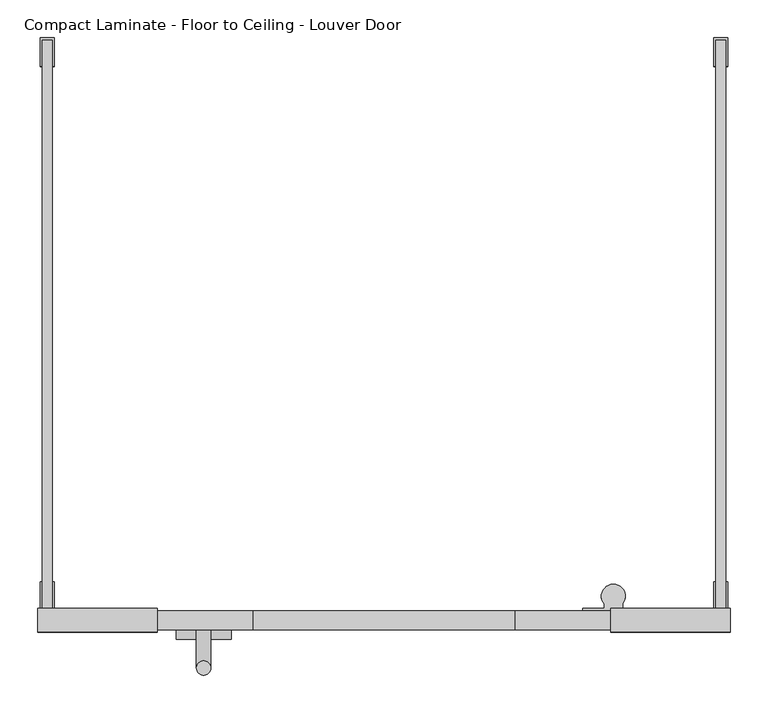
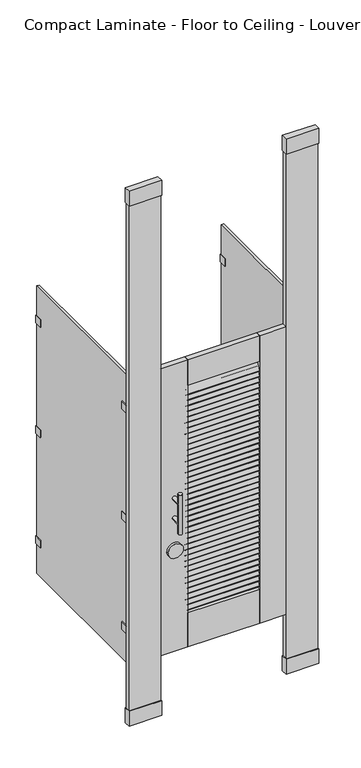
"""IFC4 building model written with IfcOpenShell, lengths in millimetres: proxy geometry, Toilet-Partition_Ironwood-Mfg_Compact-Laminate : Compact Laminate - Floor to Ceiling - Louver Door."""

from ifc_helpers import new_model, si_unit, point, frame, frame_2d, origin, origin_with_axes, place, context, project, spatial, polyline, circle_curve, ellipse_curve, trimmed, segment, composite_curve, outline, extrude, source, transform, mapped, element, save
from ifc_brep_helpers import plane_surface, cylinder_surface, advanced_brep


def compact_laminate_floor_to_ceiling_louver_door_2ef58aba(model_context):
    return source(origin(), model_context, "Body", "SolidModel", [
        extrude(outline(polyline([(542.925, -790.575), (542.925, -758.825), (701.675, -758.825), (701.675, -790.575), (542.925, -790.575)])), frame((0.0, 0.0, 2667.0), z_axis=(0.0, 0.0, 1.0), x_axis=(1.0, 0.0, 0.0)), (0.0, 0.0, 1.0), 76.1999999),
        extrude(outline(polyline([(701.675, -758.825), (701.675, -790.575), (542.925, -790.575), (542.925, -758.825), (701.675, -758.825)])), origin_with_axes(), (0.0, 0.0, 1.0), 76.2),
        extrude(outline(polyline([(698.5, -762.0), (698.5, -787.4), (546.1, -787.4), (546.1, -762.0), (698.5, -762.0)])), origin_with_axes(), (0.0, 0.0, 1.0), 2667.0),
        extrude(outline(polyline([(-60.325, -790.575), (-219.075, -790.575), (-219.075, -758.825), (-60.325, -758.825), (-60.325, -790.575)])), frame((0.0, 0.0, 2667.0), z_axis=(0.0, 0.0, 1.0), x_axis=(1.0, 0.0, 0.0)), (0.0, 0.0, 1.0), 76.1999999),
        extrude(outline(polyline([(-219.075, -758.825), (-60.325, -758.825), (-60.325, -790.575), (-219.075, -790.575), (-219.075, -758.825)])), origin_with_axes(), (0.0, 0.0, 1.0), 76.2),
        extrude(outline(polyline([(-215.9, -762.0), (-63.5, -762.0), (-63.5, -787.4), (-215.9, -787.4), (-215.9, -762.0)])), origin_with_axes(), (0.0, 0.0, 1.0), 2667.0),
        extrude(outline(composite_curve([segment(polyline([(-762.7746396, 1604.8741298), (-780.7614889, 1567.9956236)]), True, "CONTINUOUS"), segment(trimmed(circle_curve(frame_2d((-783.61516, 1569.387452)), 3.175), [point((-780.7614889, 1567.9956236))], [point((-786.4688311, 1570.7792804))], False, "CARTESIAN"), True, "CONTINUOUS"), segment(polyline([(-786.4688311, 1570.7792804), (-768.4819818, 1607.6577866)]), True, "CONTINUOUS"), segment(trimmed(circle_curve(frame_2d((-765.6283107, 1606.2659582)), 3.175), [point((-768.4819818, 1607.6577866))], [point((-762.7746396, 1604.8741298))], False, "CARTESIAN"), True, "CONTINUOUS")], self_intersect=False)), frame((66.675, 0.0, 0.0), z_axis=(1.0, 0.0, 0.0), x_axis=(0.0, 1.0, 0.0)), (0.0, 0.0, 1.0), 349.25),
        extrude(outline(composite_curve([segment(polyline([(-762.7746396, 1576.5578755), (-780.7614889, 1539.6793692)]), True, "CONTINUOUS"), segment(trimmed(circle_curve(frame_2d((-783.61516, 1541.0711976)), 3.175), [point((-780.7614889, 1539.6793692))], [point((-786.4688311, 1542.463026))], False, "CARTESIAN"), True, "CONTINUOUS"), segment(polyline([(-786.4688311, 1542.463026), (-768.4819818, 1579.3415322)]), True, "CONTINUOUS"), segment(trimmed(circle_curve(frame_2d((-765.6283107, 1577.9497038)), 3.175), [point((-768.4819818, 1579.3415322))], [point((-762.7746396, 1576.5578755))], False, "CARTESIAN"), True, "CONTINUOUS")], self_intersect=False)), frame((66.675, 0.0, 0.0), z_axis=(1.0, 0.0, 0.0), x_axis=(0.0, 1.0, 0.0)), (0.0, 0.0, 1.0), 349.25),
        extrude(outline(composite_curve([segment(polyline([(-762.7746396, 1548.2416211), (-780.7614889, 1511.3631149)]), True, "CONTINUOUS"), segment(trimmed(circle_curve(frame_2d((-783.61516, 1512.7549433)), 3.175), [point((-780.7614889, 1511.3631149))], [point((-786.4688311, 1514.1467716))], False, "CARTESIAN"), True, "CONTINUOUS"), segment(polyline([(-786.4688311, 1514.1467716), (-768.4819818, 1551.0252779)]), True, "CONTINUOUS"), segment(trimmed(circle_curve(frame_2d((-765.6283107, 1549.6334495)), 3.175), [point((-768.4819818, 1551.0252779))], [point((-762.7746396, 1548.2416211))], False, "CARTESIAN"), True, "CONTINUOUS")], self_intersect=False)), frame((66.675, 0.0, 0.0), z_axis=(1.0, 0.0, 0.0), x_axis=(0.0, 1.0, 0.0)), (0.0, 0.0, 1.0), 349.25),
        extrude(outline(composite_curve([segment(polyline([(-762.7746396, 1519.9253667), (-780.7614889, 1483.0468605)]), True, "CONTINUOUS"), segment(trimmed(circle_curve(frame_2d((-783.61516, 1484.4386889)), 3.175), [point((-780.7614889, 1483.0468605))], [point((-786.4688311, 1485.8305173))], False, "CARTESIAN"), True, "CONTINUOUS"), segment(polyline([(-786.4688311, 1485.8305173), (-768.4819818, 1522.7090235)]), True, "CONTINUOUS"), segment(trimmed(circle_curve(frame_2d((-765.6283107, 1521.3171951)), 3.175), [point((-768.4819818, 1522.7090235))], [point((-762.7746396, 1519.9253667))], False, "CARTESIAN"), True, "CONTINUOUS")], self_intersect=False)), frame((66.675, 0.0, 0.0), z_axis=(1.0, 0.0, 0.0), x_axis=(0.0, 1.0, 0.0)), (0.0, 0.0, 1.0), 349.25),
        extrude(outline(composite_curve([segment(polyline([(-762.7746396, 1491.6091124), (-780.7614889, 1454.7306061)]), True, "CONTINUOUS"), segment(trimmed(circle_curve(frame_2d((-783.61516, 1456.1224345)), 3.175), [point((-780.7614889, 1454.7306061))], [point((-786.4688311, 1457.5142629))], False, "CARTESIAN"), True, "CONTINUOUS"), segment(polyline([(-786.4688311, 1457.5142629), (-768.4819818, 1494.3927691)]), True, "CONTINUOUS"), segment(trimmed(circle_curve(frame_2d((-765.6283107, 1493.0009408)), 3.175), [point((-768.4819818, 1494.3927691))], [point((-762.7746396, 1491.6091124))], False, "CARTESIAN"), True, "CONTINUOUS")], self_intersect=False)), frame((66.675, 0.0, 0.0), z_axis=(1.0, 0.0, 0.0), x_axis=(0.0, 1.0, 0.0)), (0.0, 0.0, 1.0), 349.25),
        extrude(outline(composite_curve([segment(polyline([(-762.7746396, 1463.292858), (-780.7614889, 1426.4143518)]), True, "CONTINUOUS"), segment(trimmed(circle_curve(frame_2d((-783.61516, 1427.8061802)), 3.175), [point((-780.7614889, 1426.4143518))], [point((-786.4688311, 1429.1980085))], False, "CARTESIAN"), True, "CONTINUOUS"), segment(polyline([(-786.4688311, 1429.1980085), (-768.4819818, 1466.0765148)]), True, "CONTINUOUS"), segment(trimmed(circle_curve(frame_2d((-765.6283107, 1464.6846864)), 3.175), [point((-768.4819818, 1466.0765148))], [point((-762.7746396, 1463.292858))], False, "CARTESIAN"), True, "CONTINUOUS")], self_intersect=False)), frame((66.675, 0.0, 0.0), z_axis=(1.0, 0.0, 0.0), x_axis=(0.0, 1.0, 0.0)), (0.0, 0.0, 1.0), 349.25),
        extrude(outline(composite_curve([segment(polyline([(-762.7746396, 1434.9766036), (-780.7614889, 1398.0980974)]), True, "CONTINUOUS"), segment(trimmed(circle_curve(frame_2d((-783.61516, 1399.4899258)), 3.175), [point((-780.7614889, 1398.0980974))], [point((-786.4688311, 1400.8817542))], False, "CARTESIAN"), True, "CONTINUOUS"), segment(polyline([(-786.4688311, 1400.8817542), (-768.4819818, 1437.7602604)]), True, "CONTINUOUS"), segment(trimmed(circle_curve(frame_2d((-765.6283107, 1436.368432)), 3.175), [point((-768.4819818, 1437.7602604))], [point((-762.7746396, 1434.9766036))], False, "CARTESIAN"), True, "CONTINUOUS")], self_intersect=False)), frame((66.675, 0.0, 0.0), z_axis=(1.0, 0.0, 0.0), x_axis=(0.0, 1.0, 0.0)), (0.0, 0.0, 1.0), 349.25),
        extrude(outline(composite_curve([segment(polyline([(-762.7746396, 1406.6603493), (-780.7614889, 1369.781843)]), True, "CONTINUOUS"), segment(trimmed(circle_curve(frame_2d((-783.61516, 1371.1736714)), 3.175), [point((-780.7614889, 1369.781843))], [point((-786.4688311, 1372.5654998))], False, "CARTESIAN"), True, "CONTINUOUS"), segment(polyline([(-786.4688311, 1372.5654998), (-768.4819818, 1409.444006)]), True, "CONTINUOUS"), segment(trimmed(circle_curve(frame_2d((-765.6283107, 1408.0521777)), 3.175), [point((-768.4819818, 1409.444006))], [point((-762.7746396, 1406.6603493))], False, "CARTESIAN"), True, "CONTINUOUS")], self_intersect=False)), frame((66.675, 0.0, 0.0), z_axis=(1.0, 0.0, 0.0), x_axis=(0.0, 1.0, 0.0)), (0.0, 0.0, 1.0), 349.25),
        extrude(outline(composite_curve([segment(polyline([(-762.7746396, 1378.3440949), (-780.7614889, 1341.4655887)]), True, "CONTINUOUS"), segment(trimmed(circle_curve(frame_2d((-783.61516, 1342.8574171)), 3.175), [point((-780.7614889, 1341.4655887))], [point((-786.4688311, 1344.2492455))], False, "CARTESIAN"), True, "CONTINUOUS"), segment(polyline([(-786.4688311, 1344.2492455), (-768.4819818, 1381.1277517)]), True, "CONTINUOUS"), segment(trimmed(circle_curve(frame_2d((-765.6283107, 1379.7359233)), 3.175), [point((-768.4819818, 1381.1277517))], [point((-762.7746396, 1378.3440949))], False, "CARTESIAN"), True, "CONTINUOUS")], self_intersect=False)), frame((66.675, 0.0, 0.0), z_axis=(1.0, 0.0, 0.0), x_axis=(0.0, 1.0, 0.0)), (0.0, 0.0, 1.0), 349.25),
        extrude(outline(composite_curve([segment(polyline([(-762.7746396, 1350.0278405), (-780.7614889, 1313.1493343)]), True, "CONTINUOUS"), segment(trimmed(circle_curve(frame_2d((-783.61516, 1314.5411627)), 3.175), [point((-780.7614889, 1313.1493343))], [point((-786.4688311, 1315.9329911))], False, "CARTESIAN"), True, "CONTINUOUS"), segment(polyline([(-786.4688311, 1315.9329911), (-768.4819818, 1352.8114973)]), True, "CONTINUOUS"), segment(trimmed(circle_curve(frame_2d((-765.6283107, 1351.4196689)), 3.175), [point((-768.4819818, 1352.8114973))], [point((-762.7746396, 1350.0278405))], False, "CARTESIAN"), True, "CONTINUOUS")], self_intersect=False)), frame((66.675, 0.0, 0.0), z_axis=(1.0, 0.0, 0.0), x_axis=(0.0, 1.0, 0.0)), (0.0, 0.0, 1.0), 349.25),
        extrude(outline(composite_curve([segment(polyline([(-762.7746396, 1321.7115862), (-780.7614889, 1284.8330799)]), True, "CONTINUOUS"), segment(trimmed(circle_curve(frame_2d((-783.61516, 1286.2249083)), 3.175), [point((-780.7614889, 1284.8330799))], [point((-786.4688311, 1287.6167367))], False, "CARTESIAN"), True, "CONTINUOUS"), segment(polyline([(-786.4688311, 1287.6167367), (-768.4819818, 1324.4952429)]), True, "CONTINUOUS"), segment(trimmed(circle_curve(frame_2d((-765.6283107, 1323.1034146)), 3.175), [point((-768.4819818, 1324.4952429))], [point((-762.7746396, 1321.7115862))], False, "CARTESIAN"), True, "CONTINUOUS")], self_intersect=False)), frame((66.675, 0.0, 0.0), z_axis=(1.0, 0.0, 0.0), x_axis=(0.0, 1.0, 0.0)), (0.0, 0.0, 1.0), 349.25),
        extrude(outline(composite_curve([segment(polyline([(-762.7746396, 1293.3953318), (-780.7614889, 1256.5168256)]), True, "CONTINUOUS"), segment(trimmed(circle_curve(frame_2d((-783.61516, 1257.908654)), 3.175), [point((-780.7614889, 1256.5168256))], [point((-786.4688311, 1259.3004824))], False, "CARTESIAN"), True, "CONTINUOUS"), segment(polyline([(-786.4688311, 1259.3004824), (-768.4819818, 1296.1789886)]), True, "CONTINUOUS"), segment(trimmed(circle_curve(frame_2d((-765.6283107, 1294.7871602)), 3.175), [point((-768.4819818, 1296.1789886))], [point((-762.7746396, 1293.3953318))], False, "CARTESIAN"), True, "CONTINUOUS")], self_intersect=False)), frame((66.675, 0.0, 0.0), z_axis=(1.0, 0.0, 0.0), x_axis=(0.0, 1.0, 0.0)), (0.0, 0.0, 1.0), 349.25),
        extrude(outline(composite_curve([segment(polyline([(-762.7746396, 1265.0790774), (-780.7614889, 1228.2005712)]), True, "CONTINUOUS"), segment(trimmed(circle_curve(frame_2d((-783.61516, 1229.5923996)), 3.175), [point((-780.7614889, 1228.2005712))], [point((-786.4688311, 1230.984228))], False, "CARTESIAN"), True, "CONTINUOUS"), segment(polyline([(-786.4688311, 1230.984228), (-768.4819818, 1267.8627342)]), True, "CONTINUOUS"), segment(trimmed(circle_curve(frame_2d((-765.6283107, 1266.4709058)), 3.175), [point((-768.4819818, 1267.8627342))], [point((-762.7746396, 1265.0790774))], False, "CARTESIAN"), True, "CONTINUOUS")], self_intersect=False)), frame((66.675, 0.0, 0.0), z_axis=(1.0, 0.0, 0.0), x_axis=(0.0, 1.0, 0.0)), (0.0, 0.0, 1.0), 349.25),
        extrude(outline(composite_curve([segment(polyline([(-762.7746396, 1236.7628231), (-780.7614889, 1199.8843168)]), True, "CONTINUOUS"), segment(trimmed(circle_curve(frame_2d((-783.61516, 1201.2761452)), 3.175), [point((-780.7614889, 1199.8843168))], [point((-786.4688311, 1202.6679736))], False, "CARTESIAN"), True, "CONTINUOUS"), segment(polyline([(-786.4688311, 1202.6679736), (-768.4819818, 1239.5464799)]), True, "CONTINUOUS"), segment(trimmed(circle_curve(frame_2d((-765.6283107, 1238.1546515)), 3.175), [point((-768.4819818, 1239.5464799))], [point((-762.7746396, 1236.7628231))], False, "CARTESIAN"), True, "CONTINUOUS")], self_intersect=False)), frame((66.675, 0.0, 0.0), z_axis=(1.0, 0.0, 0.0), x_axis=(0.0, 1.0, 0.0)), (0.0, 0.0, 1.0), 349.25),
        extrude(outline(composite_curve([segment(polyline([(-762.7746396, 1208.4465687), (-780.7614889, 1171.5680625)]), True, "CONTINUOUS"), segment(trimmed(circle_curve(frame_2d((-783.61516, 1172.9598909)), 3.175), [point((-780.7614889, 1171.5680625))], [point((-786.4688311, 1174.3517193))], False, "CARTESIAN"), True, "CONTINUOUS"), segment(polyline([(-786.4688311, 1174.3517193), (-768.4819818, 1211.2302255)]), True, "CONTINUOUS"), segment(trimmed(circle_curve(frame_2d((-765.6283107, 1209.8383971)), 3.175), [point((-768.4819818, 1211.2302255))], [point((-762.7746396, 1208.4465687))], False, "CARTESIAN"), True, "CONTINUOUS")], self_intersect=False)), frame((66.675, 0.0, 0.0), z_axis=(1.0, 0.0, 0.0), x_axis=(0.0, 1.0, 0.0)), (0.0, 0.0, 1.0), 349.25),
        extrude(outline(composite_curve([segment(polyline([(-762.7746396, 1180.1303143), (-780.7614889, 1143.2518081)]), True, "CONTINUOUS"), segment(trimmed(circle_curve(frame_2d((-783.61516, 1144.6436365)), 3.175), [point((-780.7614889, 1143.2518081))], [point((-786.4688311, 1146.0354649))], False, "CARTESIAN"), True, "CONTINUOUS"), segment(polyline([(-786.4688311, 1146.0354649), (-768.4819818, 1182.9139711)]), True, "CONTINUOUS"), segment(trimmed(circle_curve(frame_2d((-765.6283107, 1181.5221427)), 3.175), [point((-768.4819818, 1182.9139711))], [point((-762.7746396, 1180.1303143))], False, "CARTESIAN"), True, "CONTINUOUS")], self_intersect=False)), frame((66.675, 0.0, 0.0), z_axis=(1.0, 0.0, 0.0), x_axis=(0.0, 1.0, 0.0)), (0.0, 0.0, 1.0), 349.25),
        extrude(outline(composite_curve([segment(polyline([(-762.7746396, 1151.81406), (-780.7614889, 1114.9355537)]), True, "CONTINUOUS"), segment(trimmed(circle_curve(frame_2d((-783.61516, 1116.3273821)), 3.175), [point((-780.7614889, 1114.9355537))], [point((-786.4688311, 1117.7192105))], False, "CARTESIAN"), True, "CONTINUOUS"), segment(polyline([(-786.4688311, 1117.7192105), (-768.4819818, 1154.5977168)]), True, "CONTINUOUS"), segment(trimmed(circle_curve(frame_2d((-765.6283107, 1153.2058884)), 3.175), [point((-768.4819818, 1154.5977168))], [point((-762.7746396, 1151.81406))], False, "CARTESIAN"), True, "CONTINUOUS")], self_intersect=False)), frame((66.675, 0.0, 0.0), z_axis=(1.0, 0.0, 0.0), x_axis=(0.0, 1.0, 0.0)), (0.0, 0.0, 1.0), 349.25),
        extrude(outline(composite_curve([segment(polyline([(-762.7746396, 1123.4978056), (-780.7614889, 1086.6192994)]), True, "CONTINUOUS"), segment(trimmed(circle_curve(frame_2d((-783.61516, 1088.0111278)), 3.175), [point((-780.7614889, 1086.6192994))], [point((-786.4688311, 1089.4029562))], False, "CARTESIAN"), True, "CONTINUOUS"), segment(polyline([(-786.4688311, 1089.4029562), (-768.4819818, 1126.2814624)]), True, "CONTINUOUS"), segment(trimmed(circle_curve(frame_2d((-765.6283107, 1124.889634)), 3.175), [point((-768.4819818, 1126.2814624))], [point((-762.7746396, 1123.4978056))], False, "CARTESIAN"), True, "CONTINUOUS")], self_intersect=False)), frame((66.675, 0.0, 0.0), z_axis=(1.0, 0.0, 0.0), x_axis=(0.0, 1.0, 0.0)), (0.0, 0.0, 1.0), 349.25),
        extrude(outline(composite_curve([segment(polyline([(-762.7746396, 1095.1815512), (-780.7614889, 1058.303045)]), True, "CONTINUOUS"), segment(trimmed(circle_curve(frame_2d((-783.61516, 1059.6948734)), 3.175), [point((-780.7614889, 1058.303045))], [point((-786.4688311, 1061.0867018))], False, "CARTESIAN"), True, "CONTINUOUS"), segment(polyline([(-786.4688311, 1061.0867018), (-768.4819818, 1097.965208)]), True, "CONTINUOUS"), segment(trimmed(circle_curve(frame_2d((-765.6283107, 1096.5733796)), 3.175), [point((-768.4819818, 1097.965208))], [point((-762.7746396, 1095.1815512))], False, "CARTESIAN"), True, "CONTINUOUS")], self_intersect=False)), frame((66.675, 0.0, 0.0), z_axis=(1.0, 0.0, 0.0), x_axis=(0.0, 1.0, 0.0)), (0.0, 0.0, 1.0), 349.25),
        extrude(outline(composite_curve([segment(polyline([(-762.7746396, 1066.8652969), (-780.7614889, 1029.9867907)]), True, "CONTINUOUS"), segment(trimmed(circle_curve(frame_2d((-783.61516, 1031.378619)), 3.175), [point((-780.7614889, 1029.9867907))], [point((-786.4688311, 1032.7704474))], False, "CARTESIAN"), True, "CONTINUOUS"), segment(polyline([(-786.4688311, 1032.7704474), (-768.4819818, 1069.6489537)]), True, "CONTINUOUS"), segment(trimmed(circle_curve(frame_2d((-765.6283107, 1068.2571253)), 3.175), [point((-768.4819818, 1069.6489537))], [point((-762.7746396, 1066.8652969))], False, "CARTESIAN"), True, "CONTINUOUS")], self_intersect=False)), frame((66.675, 0.0, 0.0), z_axis=(1.0, 0.0, 0.0), x_axis=(0.0, 1.0, 0.0)), (0.0, 0.0, 1.0), 349.25),
        extrude(outline(composite_curve([segment(polyline([(-762.7746396, 1038.5490425), (-780.7614889, 1001.6705363)]), True, "CONTINUOUS"), segment(trimmed(circle_curve(frame_2d((-783.61516, 1003.0623647)), 3.175), [point((-780.7614889, 1001.6705363))], [point((-786.4688311, 1004.4541931))], False, "CARTESIAN"), True, "CONTINUOUS"), segment(polyline([(-786.4688311, 1004.4541931), (-768.4819818, 1041.3326993)]), True, "CONTINUOUS"), segment(trimmed(circle_curve(frame_2d((-765.6283107, 1039.9408709)), 3.175), [point((-768.4819818, 1041.3326993))], [point((-762.7746396, 1038.5490425))], False, "CARTESIAN"), True, "CONTINUOUS")], self_intersect=False)), frame((66.675, 0.0, 0.0), z_axis=(1.0, 0.0, 0.0), x_axis=(0.0, 1.0, 0.0)), (0.0, 0.0, 1.0), 349.25),
        extrude(outline(composite_curve([segment(polyline([(-762.7746396, 1010.2327881), (-780.7614889, 973.3542819)]), True, "CONTINUOUS"), segment(trimmed(circle_curve(frame_2d((-783.61516, 974.7461103)), 3.175), [point((-780.7614889, 973.3542819))], [point((-786.4688311, 976.1379387))], False, "CARTESIAN"), True, "CONTINUOUS"), segment(polyline([(-786.4688311, 976.1379387), (-768.4819818, 1013.0164449)]), True, "CONTINUOUS"), segment(trimmed(circle_curve(frame_2d((-765.6283107, 1011.6246165)), 3.175), [point((-768.4819818, 1013.0164449))], [point((-762.7746396, 1010.2327881))], False, "CARTESIAN"), True, "CONTINUOUS")], self_intersect=False)), frame((66.675, 0.0, 0.0), z_axis=(1.0, 0.0, 0.0), x_axis=(0.0, 1.0, 0.0)), (0.0, 0.0, 1.0), 349.25),
        extrude(outline(composite_curve([segment(polyline([(-762.7746396, 981.9165338), (-780.7614889, 945.0380276)]), True, "CONTINUOUS"), segment(trimmed(circle_curve(frame_2d((-783.61516, 946.4298559)), 3.175), [point((-780.7614889, 945.0380276))], [point((-786.4688311, 947.8216843))], False, "CARTESIAN"), True, "CONTINUOUS"), segment(polyline([(-786.4688311, 947.8216843), (-768.4819818, 984.7001906)]), True, "CONTINUOUS"), segment(trimmed(circle_curve(frame_2d((-765.6283107, 983.3083622)), 3.175), [point((-768.4819818, 984.7001906))], [point((-762.7746396, 981.9165338))], False, "CARTESIAN"), True, "CONTINUOUS")], self_intersect=False)), frame((66.675, 0.0, 0.0), z_axis=(1.0, 0.0, 0.0), x_axis=(0.0, 1.0, 0.0)), (0.0, 0.0, 1.0), 349.25),
        extrude(outline(composite_curve([segment(polyline([(-762.7746396, 953.6002794), (-780.7614889, 916.7217732)]), True, "CONTINUOUS"), segment(trimmed(circle_curve(frame_2d((-783.61516, 918.1136016)), 3.175), [point((-780.7614889, 916.7217732))], [point((-786.4688311, 919.50543))], False, "CARTESIAN"), True, "CONTINUOUS"), segment(polyline([(-786.4688311, 919.50543), (-768.4819818, 956.3839362)]), True, "CONTINUOUS"), segment(trimmed(circle_curve(frame_2d((-765.6283107, 954.9921078)), 3.175), [point((-768.4819818, 956.3839362))], [point((-762.7746396, 953.6002794))], False, "CARTESIAN"), True, "CONTINUOUS")], self_intersect=False)), frame((66.675, 0.0, 0.0), z_axis=(1.0, 0.0, 0.0), x_axis=(0.0, 1.0, 0.0)), (0.0, 0.0, 1.0), 349.25),
        extrude(outline(composite_curve([segment(polyline([(-762.7746396, 925.284025), (-780.7614889, 888.4055188)]), True, "CONTINUOUS"), segment(trimmed(circle_curve(frame_2d((-783.61516, 889.7973472)), 3.175), [point((-780.7614889, 888.4055188))], [point((-786.4688311, 891.1891756))], False, "CARTESIAN"), True, "CONTINUOUS"), segment(polyline([(-786.4688311, 891.1891756), (-768.4819818, 928.0676818)]), True, "CONTINUOUS"), segment(trimmed(circle_curve(frame_2d((-765.6283107, 926.6758534)), 3.175), [point((-768.4819818, 928.0676818))], [point((-762.7746396, 925.284025))], False, "CARTESIAN"), True, "CONTINUOUS")], self_intersect=False)), frame((66.675, 0.0, 0.0), z_axis=(1.0, 0.0, 0.0), x_axis=(0.0, 1.0, 0.0)), (0.0, 0.0, 1.0), 349.25),
        extrude(outline(composite_curve([segment(polyline([(-762.7746396, 896.9677707), (-780.7614889, 860.0892645)]), True, "CONTINUOUS"), segment(trimmed(circle_curve(frame_2d((-783.61516, 861.4810928)), 3.175), [point((-780.7614889, 860.0892645))], [point((-786.4688311, 862.8729212))], False, "CARTESIAN"), True, "CONTINUOUS"), segment(polyline([(-786.4688311, 862.8729212), (-768.4819818, 899.7514275)]), True, "CONTINUOUS"), segment(trimmed(circle_curve(frame_2d((-765.6283107, 898.3595991)), 3.175), [point((-768.4819818, 899.7514275))], [point((-762.7746396, 896.9677707))], False, "CARTESIAN"), True, "CONTINUOUS")], self_intersect=False)), frame((66.675, 0.0, 0.0), z_axis=(1.0, 0.0, 0.0), x_axis=(0.0, 1.0, 0.0)), (0.0, 0.0, 1.0), 349.25),
        extrude(outline(composite_curve([segment(polyline([(-762.7746396, 868.6515163), (-780.7614889, 831.7730101)]), True, "CONTINUOUS"), segment(trimmed(circle_curve(frame_2d((-783.61516, 833.1648385)), 3.175), [point((-780.7614889, 831.7730101))], [point((-786.4688311, 834.5566669))], False, "CARTESIAN"), True, "CONTINUOUS"), segment(polyline([(-786.4688311, 834.5566669), (-768.4819818, 871.4351731)]), True, "CONTINUOUS"), segment(trimmed(circle_curve(frame_2d((-765.6283107, 870.0433447)), 3.175), [point((-768.4819818, 871.4351731))], [point((-762.7746396, 868.6515163))], False, "CARTESIAN"), True, "CONTINUOUS")], self_intersect=False)), frame((66.675, 0.0, 0.0), z_axis=(1.0, 0.0, 0.0), x_axis=(0.0, 1.0, 0.0)), (0.0, 0.0, 1.0), 349.25),
        extrude(outline(composite_curve([segment(polyline([(-762.7746396, 840.335262), (-780.7614889, 803.4567557)]), True, "CONTINUOUS"), segment(trimmed(circle_curve(frame_2d((-783.61516, 804.8485841)), 3.175), [point((-780.7614889, 803.4567557))], [point((-786.4688311, 806.2404125))], False, "CARTESIAN"), True, "CONTINUOUS"), segment(polyline([(-786.4688311, 806.2404125), (-768.4819818, 843.1189187)]), True, "CONTINUOUS"), segment(trimmed(circle_curve(frame_2d((-765.6283107, 841.7270903)), 3.175), [point((-768.4819818, 843.1189187))], [point((-762.7746396, 840.335262))], False, "CARTESIAN"), True, "CONTINUOUS")], self_intersect=False)), frame((66.675, 0.0, 0.0), z_axis=(1.0, 0.0, 0.0), x_axis=(0.0, 1.0, 0.0)), (0.0, 0.0, 1.0), 349.25),
        extrude(outline(composite_curve([segment(polyline([(-762.7746396, 812.0190076), (-780.7614889, 775.1405014)]), True, "CONTINUOUS"), segment(trimmed(circle_curve(frame_2d((-783.61516, 776.5323298)), 3.175), [point((-780.7614889, 775.1405014))], [point((-786.4688311, 777.9241581))], False, "CARTESIAN"), True, "CONTINUOUS"), segment(polyline([(-786.4688311, 777.9241581), (-768.4819818, 814.8026644)]), True, "CONTINUOUS"), segment(trimmed(circle_curve(frame_2d((-765.6283107, 813.410836)), 3.175), [point((-768.4819818, 814.8026644))], [point((-762.7746396, 812.0190076))], False, "CARTESIAN"), True, "CONTINUOUS")], self_intersect=False)), frame((66.675, 0.0, 0.0), z_axis=(1.0, 0.0, 0.0), x_axis=(0.0, 1.0, 0.0)), (0.0, 0.0, 1.0), 349.25),
        extrude(outline(composite_curve([segment(polyline([(-762.7746396, 783.7027532), (-780.7614889, 746.824247)]), True, "CONTINUOUS"), segment(trimmed(circle_curve(frame_2d((-783.61516, 748.2160754)), 3.175), [point((-780.7614889, 746.824247))], [point((-786.4688311, 749.6079038))], False, "CARTESIAN"), True, "CONTINUOUS"), segment(polyline([(-786.4688311, 749.6079038), (-768.4819818, 786.48641)]), True, "CONTINUOUS"), segment(trimmed(circle_curve(frame_2d((-765.6283107, 785.0945816)), 3.175), [point((-768.4819818, 786.48641))], [point((-762.7746396, 783.7027532))], False, "CARTESIAN"), True, "CONTINUOUS")], self_intersect=False)), frame((66.675, 0.0, 0.0), z_axis=(1.0, 0.0, 0.0), x_axis=(0.0, 1.0, 0.0)), (0.0, 0.0, 1.0), 349.25),
        extrude(outline(composite_curve([segment(polyline([(-762.7746396, 755.3864989), (-780.7614889, 718.5079926)]), True, "CONTINUOUS"), segment(trimmed(circle_curve(frame_2d((-783.61516, 719.899821)), 3.175), [point((-780.7614889, 718.5079926))], [point((-786.4688311, 721.2916494))], False, "CARTESIAN"), True, "CONTINUOUS"), segment(polyline([(-786.4688311, 721.2916494), (-768.4819818, 758.1701556)]), True, "CONTINUOUS"), segment(trimmed(circle_curve(frame_2d((-765.6283107, 756.7783272)), 3.175), [point((-768.4819818, 758.1701556))], [point((-762.7746396, 755.3864989))], False, "CARTESIAN"), True, "CONTINUOUS")], self_intersect=False)), frame((66.675, 0.0, 0.0), z_axis=(1.0, 0.0, 0.0), x_axis=(0.0, 1.0, 0.0)), (0.0, 0.0, 1.0), 349.25),
        extrude(outline(composite_curve([segment(polyline([(-762.7746396, 727.0702445), (-780.7614889, 690.1917383)]), True, "CONTINUOUS"), segment(trimmed(circle_curve(frame_2d((-783.61516, 691.5835667)), 3.175), [point((-780.7614889, 690.1917383))], [point((-786.4688311, 692.975395))], False, "CARTESIAN"), True, "CONTINUOUS"), segment(polyline([(-786.4688311, 692.975395), (-768.4819818, 729.8539013)]), True, "CONTINUOUS"), segment(trimmed(circle_curve(frame_2d((-765.6283107, 728.4620729)), 3.175), [point((-768.4819818, 729.8539013))], [point((-762.7746396, 727.0702445))], False, "CARTESIAN"), True, "CONTINUOUS")], self_intersect=False)), frame((66.675, 0.0, 0.0), z_axis=(1.0, 0.0, 0.0), x_axis=(0.0, 1.0, 0.0)), (0.0, 0.0, 1.0), 349.25),
        extrude(outline(composite_curve([segment(polyline([(-762.7746396, 698.7539901), (-780.7614889, 661.8754839)]), True, "CONTINUOUS"), segment(trimmed(circle_curve(frame_2d((-783.61516, 663.2673123)), 3.175), [point((-780.7614889, 661.8754839))], [point((-786.4688311, 664.6591407))], False, "CARTESIAN"), True, "CONTINUOUS"), segment(polyline([(-786.4688311, 664.6591407), (-768.4819818, 701.5376469)]), True, "CONTINUOUS"), segment(trimmed(circle_curve(frame_2d((-765.6283107, 700.1458185)), 3.175), [point((-768.4819818, 701.5376469))], [point((-762.7746396, 698.7539901))], False, "CARTESIAN"), True, "CONTINUOUS")], self_intersect=False)), frame((66.675, 0.0, 0.0), z_axis=(1.0, 0.0, 0.0), x_axis=(0.0, 1.0, 0.0)), (0.0, 0.0, 1.0), 349.25),
        extrude(outline(composite_curve([segment(polyline([(-762.7746396, 670.4377358), (-780.7614889, 633.5592295)]), True, "CONTINUOUS"), segment(trimmed(circle_curve(frame_2d((-783.61516, 634.9510579)), 3.175), [point((-780.7614889, 633.5592295))], [point((-786.4688311, 636.3428863))], False, "CARTESIAN"), True, "CONTINUOUS"), segment(polyline([(-786.4688311, 636.3428863), (-768.4819818, 673.2213925)]), True, "CONTINUOUS"), segment(trimmed(circle_curve(frame_2d((-765.6283107, 671.8295642)), 3.175), [point((-768.4819818, 673.2213925))], [point((-762.7746396, 670.4377358))], False, "CARTESIAN"), True, "CONTINUOUS")], self_intersect=False)), frame((66.675, 0.0, 0.0), z_axis=(1.0, 0.0, 0.0), x_axis=(0.0, 1.0, 0.0)), (0.0, 0.0, 1.0), 349.25),
        extrude(outline(composite_curve([segment(polyline([(-762.7746396, 642.1214814), (-780.7614889, 605.2429752)]), True, "CONTINUOUS"), segment(trimmed(circle_curve(frame_2d((-783.61516, 606.6348036)), 3.175), [point((-780.7614889, 605.2429752))], [point((-786.4688311, 608.026632))], False, "CARTESIAN"), True, "CONTINUOUS"), segment(polyline([(-786.4688311, 608.026632), (-768.4819818, 644.9051382)]), True, "CONTINUOUS"), segment(trimmed(circle_curve(frame_2d((-765.6283107, 643.5133098)), 3.175), [point((-768.4819818, 644.9051382))], [point((-762.7746396, 642.1214814))], False, "CARTESIAN"), True, "CONTINUOUS")], self_intersect=False)), frame((66.675, 0.0, 0.0), z_axis=(1.0, 0.0, 0.0), x_axis=(0.0, 1.0, 0.0)), (0.0, 0.0, 1.0), 349.25),
        extrude(outline(composite_curve([segment(polyline([(-762.7746396, 613.805227), (-780.7614889, 576.9267208)]), True, "CONTINUOUS"), segment(trimmed(circle_curve(frame_2d((-783.61516, 578.3185492)), 3.175), [point((-780.7614889, 576.9267208))], [point((-786.4688311, 579.7103776))], False, "CARTESIAN"), True, "CONTINUOUS"), segment(polyline([(-786.4688311, 579.7103776), (-768.4819818, 616.5888838)]), True, "CONTINUOUS"), segment(trimmed(circle_curve(frame_2d((-765.6283107, 615.1970554)), 3.175), [point((-768.4819818, 616.5888838))], [point((-762.7746396, 613.805227))], False, "CARTESIAN"), True, "CONTINUOUS")], self_intersect=False)), frame((66.675, 0.0, 0.0), z_axis=(1.0, 0.0, 0.0), x_axis=(0.0, 1.0, 0.0)), (0.0, 0.0, 1.0), 349.25),
        extrude(outline(composite_curve([segment(polyline([(-762.7746396, 585.4889727), (-780.7614889, 548.6104664)]), True, "CONTINUOUS"), segment(trimmed(circle_curve(frame_2d((-783.61516, 550.0022948)), 3.175), [point((-780.7614889, 548.6104664))], [point((-786.4688311, 551.3941232))], False, "CARTESIAN"), True, "CONTINUOUS"), segment(polyline([(-786.4688311, 551.3941232), (-768.4819818, 588.2726294)]), True, "CONTINUOUS"), segment(trimmed(circle_curve(frame_2d((-765.6283107, 586.8808011)), 3.175), [point((-768.4819818, 588.2726294))], [point((-762.7746396, 585.4889727))], False, "CARTESIAN"), True, "CONTINUOUS")], self_intersect=False)), frame((66.675, 0.0, 0.0), z_axis=(1.0, 0.0, 0.0), x_axis=(0.0, 1.0, 0.0)), (0.0, 0.0, 1.0), 349.25),
        extrude(outline(composite_curve([segment(polyline([(-762.7746396, 557.1727183), (-780.7614889, 520.2942121)]), True, "CONTINUOUS"), segment(trimmed(circle_curve(frame_2d((-783.61516, 521.6860405)), 3.175), [point((-780.7614889, 520.2942121))], [point((-786.4688311, 523.0778689))], False, "CARTESIAN"), True, "CONTINUOUS"), segment(polyline([(-786.4688311, 523.0778689), (-768.4819818, 559.9563751)]), True, "CONTINUOUS"), segment(trimmed(circle_curve(frame_2d((-765.6283107, 558.5645467)), 3.175), [point((-768.4819818, 559.9563751))], [point((-762.7746396, 557.1727183))], False, "CARTESIAN"), True, "CONTINUOUS")], self_intersect=False)), frame((66.675, 0.0, 0.0), z_axis=(1.0, 0.0, 0.0), x_axis=(0.0, 1.0, 0.0)), (0.0, 0.0, 1.0), 349.25),
        extrude(outline(composite_curve([segment(polyline([(-762.7746396, 1633.1903842), (-780.7614889, 1596.311878)]), True, "CONTINUOUS"), segment(trimmed(circle_curve(frame_2d((-783.61516, 1597.7037064)), 3.175), [point((-780.7614889, 1596.311878))], [point((-786.4688311, 1599.0955347))], False, "CARTESIAN"), True, "CONTINUOUS"), segment(polyline([(-786.4688311, 1599.0955347), (-768.4819818, 1635.974041)]), True, "CONTINUOUS"), segment(trimmed(circle_curve(frame_2d((-765.6283107, 1634.5822126)), 3.175), [point((-768.4819818, 1635.974041))], [point((-762.7746396, 1633.1903842))], False, "CARTESIAN"), True, "CONTINUOUS")], self_intersect=False)), frame((66.675, 0.0, 0.0), z_axis=(1.0, 0.0, 0.0), x_axis=(0.0, 1.0, 0.0)), (0.0, 0.0, 1.0), 349.25),
        extrude(outline(composite_curve([segment(polyline([(-762.7746396, 528.8564639), (-780.7614889, 491.9779577)]), True, "CONTINUOUS"), segment(trimmed(circle_curve(frame_2d((-783.61516, 493.3697861)), 3.175), [point((-780.7614889, 491.9779577))], [point((-786.4688311, 494.7616145))], False, "CARTESIAN"), True, "CONTINUOUS"), segment(polyline([(-786.4688311, 494.7616145), (-768.4819818, 531.6401207)]), True, "CONTINUOUS"), segment(trimmed(circle_curve(frame_2d((-765.6283107, 530.2482923)), 3.175), [point((-768.4819818, 531.6401207))], [point((-762.7746396, 528.8564639))], False, "CARTESIAN"), True, "CONTINUOUS")], self_intersect=False)), frame((66.675, 0.0, 0.0), z_axis=(1.0, 0.0, 0.0), x_axis=(0.0, 1.0, 0.0)), (0.0, 0.0, 1.0), 349.25),
        extrude(outline(polyline([(66.675, -762.0), (66.675, -787.4), (-63.5, -787.4), (-63.5, -762.0), (66.675, -762.0)])), frame((0.0, 0.0, 304.8), z_axis=(0.0, 0.0, 1.0), x_axis=(1.0, 0.0, 0.0)), (0.0, 0.0, 1.0), 1473.2),
        extrude(outline(polyline([(415.925, -762.0), (546.1, -762.0), (546.1, -787.4), (415.925, -787.4), (415.925, -762.0)])), frame((0.0, 0.0, 304.8), z_axis=(0.0, 0.0, 1.0), x_axis=(1.0, 0.0, 0.0)), (0.0, 0.0, 1.0), 1473.2),
        extrude(outline(polyline([(415.925, -762.0), (415.925, -787.4), (66.675, -787.4), (66.675, -762.0), (415.925, -762.0)])), frame((0.0, 0.0, 1647.825), z_axis=(0.0, 0.0, 1.0), x_axis=(1.0, 0.0, 0.0)), (0.0, 0.0, 1.0), 130.175),
        extrude(outline(polyline([(415.925, -762.0), (415.925, -787.4), (66.675, -787.4), (66.675, -762.0), (415.925, -762.0)])), frame((0.0, 0.0, 304.8), z_axis=(0.0, 0.0, 1.0), x_axis=(1.0, 0.0, 0.0)), (0.0, 0.0, 1.0), 174.625),
        extrude(outline(composite_curve([segment(trimmed(circle_curve(frame_2d((827.0875, 1.5875)), 36.5125), [point((827.0875, -34.925))], [point((827.0875, 38.1))], False, "CARTESIAN"), True, "CONTINUOUS"), segment(trimmed(circle_curve(frame_2d((827.0875, 1.5875)), 36.5125), [point((827.0875, 38.1))], [point((827.0875, -34.925))], False, "CARTESIAN"), True, "CONTINUOUS")], self_intersect=False)), frame((0.0, -800.1, 0.0), z_axis=(0.0, 1.0, 0.0), x_axis=(0.0, 0.0, 1.0)), (0.0, 0.0, 1.0), 12.7),
        advanced_brep(
        [(-7.9375, -787.4, 1092.2), (11.1125, -787.4, 1092.2), (-7.9375, -787.4, 990.6), (11.1125, -787.4, 990.6), (11.1125, -838.2, 1092.2), (-7.9375, -838.2, 1092.2), (11.1125, -838.2, 990.6), (-7.9375, -838.2, 990.6), (-7.9375, -838.2, 1143.0), (11.1125, -838.2, 1143.0), (-7.9375, -838.2, 939.8), (11.1125, -838.2, 939.8)],
        [
            (0, 1, circle_curve(frame((1.5875, -787.4, 1092.2), z_axis=(0.0, 1.0, 0.0), x_axis=(1.0, 0.0, 0.0)), 9.525)),
            (1, 0, circle_curve(frame((1.5875, -787.4, 1092.2), z_axis=(0.0, 1.0, 0.0), x_axis=(1.0, 0.0, 0.0)), 9.525)),
            (2, 3, circle_curve(frame((1.5875, -787.4, 990.6), z_axis=(0.0, 1.0, 0.0), x_axis=(1.0, 0.0, 0.0)), 9.525)),
            (3, 2, circle_curve(frame((1.5875, -787.4, 990.6), z_axis=(0.0, 1.0, 0.0), x_axis=(1.0, 0.0, 0.0)), 9.525)),
            (1, 4),
            (4, 5, ellipse_curve(frame((1.5875, -838.2, 1092.2), z_axis=(0.0, 0.7071067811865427, 0.7071067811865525), x_axis=(0.0, -0.7071067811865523, 0.7071067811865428)), 13.4703842, 9.525)),
            (5, 0),
            (5, 4, ellipse_curve(frame((1.5875, -838.2, 1092.2), z_axis=(0.0, 0.7071067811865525, -0.7071067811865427), x_axis=(0.0, -0.7071067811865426, -0.7071067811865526)), 13.4703842, 9.525)),
            (3, 6),
            (6, 7, ellipse_curve(frame((1.5875, -838.2, 990.6), z_axis=(0.0, 0.7071067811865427, 0.7071067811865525), x_axis=(0.0, -0.7071067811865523, 0.7071067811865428)), 13.4703842, 9.525)),
            (7, 2),
            (7, 6, ellipse_curve(frame((1.5875, -838.2, 990.6), z_axis=(0.0, 0.7071067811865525, -0.7071067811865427), x_axis=(0.0, -0.7071067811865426, -0.7071067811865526)), 13.4703842, 9.525)),
            (8, 9, circle_curve(frame((1.5875, -838.2, 1143.0), z_axis=(0.0, 0.0, 1.0), x_axis=(1.0, 0.0, 0.0)), 9.525)),
            (9, 8, circle_curve(frame((1.5875, -838.2, 1143.0), z_axis=(0.0, 0.0, 1.0), x_axis=(1.0, 0.0, 0.0)), 9.525)),
            (10, 11, circle_curve(frame((1.5875, -838.2, 939.8), z_axis=(0.0, 0.0, -1.0), x_axis=(1.0, 0.0, 0.0)), 9.525)),
            (11, 10, circle_curve(frame((1.5875, -838.2, 939.8), z_axis=(0.0, 0.0, -1.0), x_axis=(1.0, 0.0, 0.0)), 9.525)),
            (8, 5),
            (5, 7),
            (7, 10),
            (11, 6),
            (6, 4),
            (4, 9),
        ],
        [
            plane_surface(frame((11.1125, -787.4, 1092.2), z_axis=(0.0, 1.0, 0.0), x_axis=(0.0, 0.0, -1.0))),
            cylinder_surface(frame((1.5875, -787.4, 1092.2), z_axis=(0.0, -1.0, 0.0), x_axis=(1.0, 0.0, 0.0)), 9.525),
            cylinder_surface(frame((1.5875, -787.4, 990.6), z_axis=(0.0, -1.0, 0.0), x_axis=(1.0, 0.0, 0.0)), 9.525),
            plane_surface(frame((11.1125, -838.2, 1143.0), z_axis=(0.0, 0.0, 1.0), x_axis=(0.0, 1.0, 0.0))),
            plane_surface(frame((11.1125, -838.2, 939.8), z_axis=(0.0, 0.0, -1.0), x_axis=(0.0, -1.0, 0.0))),
            cylinder_surface(frame((1.5875, -838.2, 939.8), z_axis=(0.0, 0.0, 1.0), x_axis=(1.0, 0.0, 0.0)), 9.525),
        ],
        [
            (0, [[1, 2]]),
            (0, [[3, 4]]),
            (1, [[-2, 5, 6, 7]]),
            (1, [[-1, -7, 8, -5]]),
            (2, [[-4, 9, 10, 11]]),
            (2, [[-3, -11, 12, -9]]),
            (3, [[13, 14]]),
            (4, [[15, 16]]),
            (5, [[-13, 17, 18, 19, -16, 20, 21, 22]]),
            (5, [[-14, -22, -8, -17]]),
            (5, [[-15, -19, -10, -20]]),
            (5, [[-18, -6, -21, -12]]),
        ],
    ),
        extrude(outline(composite_curve([segment(polyline([(581.3737081, -762.0), (505.1737081, -762.0), (505.1737081, -758.825), (533.7487081, -758.825), (533.7487081, -752.9581331)]), True, "CONTINUOUS"), segment(trimmed(circle_curve(frame_2d((546.1, -742.8902139)), 15.9347861), [point((533.7487081, -752.9581331))], [point((558.4512919, -752.9581331))], False, "CARTESIAN"), True, "CONTINUOUS"), segment(polyline([(558.4512919, -752.9581331), (558.4512919, -758.825), (581.3737081, -758.825), (581.3737081, -762.0)]), True, "CONTINUOUS")], self_intersect=False)), frame((0.0, 0.0, 1574.8), z_axis=(0.0, 0.0, 1.0), x_axis=(1.0, 0.0, 0.0)), (0.0, 0.0, 1.0), 63.5),
        extrude(outline(composite_curve([segment(polyline([(581.3737081, -762.0), (505.1737081, -762.0), (505.1737081, -758.825), (533.7487081, -758.825), (533.7487081, -752.9581331)]), True, "CONTINUOUS"), segment(trimmed(circle_curve(frame_2d((546.1, -742.8902139)), 15.9347861), [point((533.7487081, -752.9581331))], [point((558.4512919, -752.9581331))], False, "CARTESIAN"), True, "CONTINUOUS"), segment(polyline([(558.4512919, -752.9581331), (558.4512919, -758.825), (581.3737081, -758.825), (581.3737081, -762.0)]), True, "CONTINUOUS")], self_intersect=False)), frame((0.0, 0.0, 1009.6500001), z_axis=(0.0, 0.0, 1.0), x_axis=(1.0, 0.0, 0.0)), (0.0, 0.0, 1.0), 63.5),
        extrude(outline(composite_curve([segment(polyline([(581.3737081, -762.0), (505.1737081, -762.0), (505.1737081, -758.825), (533.7487081, -758.825), (533.7487081, -752.9581331)]), True, "CONTINUOUS"), segment(trimmed(circle_curve(frame_2d((546.1, -742.8902139)), 15.9347861), [point((533.7487081, -752.9581331))], [point((558.4512919, -752.9581331))], False, "CARTESIAN"), True, "CONTINUOUS"), segment(polyline([(558.4512919, -752.9581331), (558.4512919, -758.825), (581.3737081, -758.825), (581.3737081, -762.0)]), True, "CONTINUOUS")], self_intersect=False)), frame((0.0, 0.0, 444.5), z_axis=(0.0, 0.0, 1.0), x_axis=(1.0, 0.0, 0.0)), (0.0, 0.0, 1.0), 63.5),
        extrude(outline(polyline([(682.498, -723.9), (682.498, -758.825), (695.198, -758.825), (695.198, -723.9), (698.373, -723.9), (698.373, -762.0), (679.323, -762.0), (679.323, -723.9), (682.498, -723.9)])), frame((0.0, 0.0, 1587.8188137), z_axis=(0.0, 0.0, 1.0), x_axis=(1.0, 0.0, 0.0)), (0.0, 0.0, 1.0), 38.1),
        extrude(outline(polyline([(682.498, -38.1), (679.323, -38.1), (679.323, 0.0), (698.373, 0.0), (698.373, -38.1), (695.198, -38.1), (695.198, -3.175), (682.498, -3.175), (682.498, -38.1)])), frame((0.0, 0.0, 1587.8188137), z_axis=(0.0, 0.0, 1.0), x_axis=(1.0, 0.0, 0.0)), (0.0, 0.0, 1.0), 38.1),
        extrude(outline(polyline([(682.498, -723.9), (682.498, -758.825), (695.198, -758.825), (695.198, -723.9), (698.373, -723.9), (698.373, -762.0), (679.323, -762.0), (679.323, -723.9), (682.498, -723.9)])), frame((0.0, 0.0, 1022.35), z_axis=(0.0, 0.0, 1.0), x_axis=(1.0, 0.0, 0.0)), (0.0, 0.0, 1.0), 38.1),
        extrude(outline(polyline([(682.498, -38.1), (679.323, -38.1), (679.323, 0.0), (698.373, 0.0), (698.373, -38.1), (695.198, -38.1), (695.198, -3.175), (682.498, -3.175), (682.498, -38.1)])), frame((0.0, 0.0, 1022.35), z_axis=(0.0, 0.0, 1.0), x_axis=(1.0, 0.0, 0.0)), (0.0, 0.0, 1.0), 38.1),
        extrude(outline(polyline([(682.498, -723.9), (682.498, -758.825), (695.198, -758.825), (695.198, -723.9), (698.373, -723.9), (698.373, -762.0), (679.323, -762.0), (679.323, -723.9), (682.498, -723.9)])), frame((0.0, 0.0, 457.2), z_axis=(0.0, 0.0, 1.0), x_axis=(1.0, 0.0, 0.0)), (0.0, 0.0, 1.0), 38.1),
        extrude(outline(polyline([(682.498, -38.1), (679.323, -38.1), (679.323, 0.0), (698.373, 0.0), (698.373, -38.1), (695.198, -38.1), (695.198, -3.175), (682.498, -3.175), (682.498, -38.1)])), frame((0.0, 0.0, 457.2), z_axis=(0.0, 0.0, 1.0), x_axis=(1.0, 0.0, 0.0)), (0.0, 0.0, 1.0), 38.1),
        extrude(outline(polyline([(-212.598, -723.9), (-212.598, -758.825), (-199.898, -758.825), (-199.898, -723.9), (-196.723, -723.9), (-196.723, -762.0), (-215.773, -762.0), (-215.773, -723.9), (-212.598, -723.9)])), frame((0.0, 0.0, 1587.8188137), z_axis=(0.0, 0.0, 1.0), x_axis=(1.0, 0.0, 0.0)), (0.0, 0.0, 1.0), 38.1),
        extrude(outline(polyline([(-212.598, -38.1), (-215.773, -38.1), (-215.773, 0.0), (-196.723, 0.0), (-196.723, -38.1), (-199.898, -38.1), (-199.898, -3.175), (-212.598, -3.175), (-212.598, -38.1)])), frame((0.0, 0.0, 1587.8188137), z_axis=(0.0, 0.0, 1.0), x_axis=(1.0, 0.0, 0.0)), (0.0, 0.0, 1.0), 38.1),
        extrude(outline(polyline([(-212.598, -723.9), (-212.598, -758.825), (-199.898, -758.825), (-199.898, -723.9), (-196.723, -723.9), (-196.723, -762.0), (-215.773, -762.0), (-215.773, -723.9), (-212.598, -723.9)])), frame((0.0, 0.0, 1022.35), z_axis=(0.0, 0.0, 1.0), x_axis=(1.0, 0.0, 0.0)), (0.0, 0.0, 1.0), 38.1),
        extrude(outline(polyline([(-212.598, -38.1), (-215.773, -38.1), (-215.773, 0.0), (-196.723, 0.0), (-196.723, -38.1), (-199.898, -38.1), (-199.898, -3.175), (-212.598, -3.175), (-212.598, -38.1)])), frame((0.0, 0.0, 1022.35), z_axis=(0.0, 0.0, 1.0), x_axis=(1.0, 0.0, 0.0)), (0.0, 0.0, 1.0), 38.1),
        extrude(outline(polyline([(-212.598, -723.9), (-212.598, -758.825), (-199.898, -758.825), (-199.898, -723.9), (-196.723, -723.9), (-196.723, -762.0), (-215.773, -762.0), (-215.773, -723.9), (-212.598, -723.9)])), frame((0.0, 0.0, 457.2), z_axis=(0.0, 0.0, 1.0), x_axis=(1.0, 0.0, 0.0)), (0.0, 0.0, 1.0), 38.1),
        extrude(outline(polyline([(-212.598, -38.1), (-215.773, -38.1), (-215.773, 0.0), (-196.723, 0.0), (-196.723, -38.1), (-199.898, -38.1), (-199.898, -3.175), (-212.598, -3.175), (-212.598, -38.1)])), frame((0.0, 0.0, 457.2), z_axis=(0.0, 0.0, 1.0), x_axis=(1.0, 0.0, 0.0)), (0.0, 0.0, 1.0), 38.1),
        extrude(outline(polyline([(-199.898, -3.175), (-199.898, -758.825), (-212.598, -758.825), (-212.598, -3.175), (-199.898, -3.175)])), frame((0.0, 0.0, 304.8), z_axis=(0.0, 0.0, 1.0), x_axis=(1.0, 0.0, 0.0)), (0.0, 0.0, 1.0), 1473.2),
        extrude(outline(polyline([(695.198, -3.175), (695.198, -758.825), (682.498, -758.825), (682.498, -3.175), (695.198, -3.175)])), frame((0.0, 0.0, 304.8), z_axis=(0.0, 0.0, 1.0), x_axis=(1.0, 0.0, 0.0)), (0.0, 0.0, 1.0), 1473.2),
    ])


if __name__ == "__main__":
    model = new_model("IFC4")
    model_context = context("Model", 3, world=origin())
    ifc_project = project(units=[si_unit("LENGTHUNIT", "METRE", prefix="MILLI")], contexts=[model_context])
    site = spatial("IfcSite", under=ifc_project)
    building = spatial("IfcBuilding", under=site)
    placement = place(None, origin())
    compact_laminate_floor_to_ceiling_louver_door_shape = compact_laminate_floor_to_ceiling_louver_door_2ef58aba(model_context)
    element("IfcBuildingElementProxy", 1, Name="Toilet-Partition_Ironwood-Mfg_Compact-Laminate : Compact Laminate - Floor to Ceiling - Louver Door", ObjectType="Toilet-Partition_Ironwood-Mfg_Compact-Laminate : Compact Laminate - Floor to Ceiling - Louver Door", at=placement, inside=building, context=model_context, shape_type="MappedRepresentation", body=[
        mapped(compact_laminate_floor_to_ceiling_louver_door_shape, transform((0.0, 0.0, 0.0), x_axis=(1.0, 0.0, 0.0), y_axis=(0.0, 1.0, 0.0), z_axis=(0.0, 0.0, 1.0))),
    ])
    save(model, "model.ifc")
